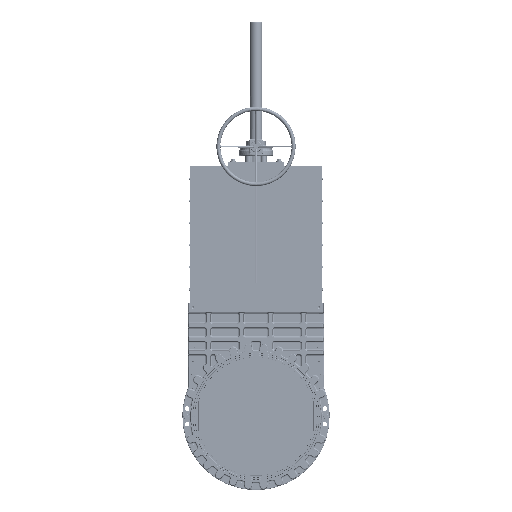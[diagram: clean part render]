
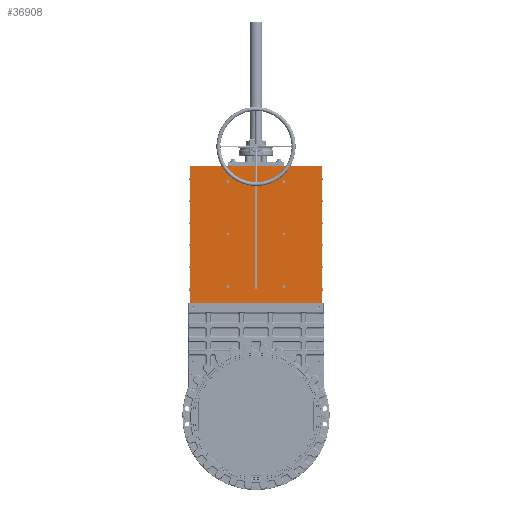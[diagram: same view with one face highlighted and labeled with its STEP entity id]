
A CAD part, top view. The second image highlights one B-rep face of the part: STEP entity #36908.
In plain terms, the highlighted planar face has unit normal (0, 0, 1).
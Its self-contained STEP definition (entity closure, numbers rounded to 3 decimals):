
#26195=PLANE('',#96330);
#29026=LINE('',#161830,#32277);
#29234=LINE('',#162666,#32485);
#29237=LINE('',#162670,#32488);
#29343=LINE('',#163003,#32594);
#29345=LINE('',#163012,#32596);
#29360=LINE('',#163071,#32611);
#29361=LINE('',#163072,#32612);
#29362=LINE('',#163073,#32613);
#32277=VECTOR('',#112100,1.);
#32485=VECTOR('',#112832,1.);
#32488=VECTOR('',#112837,1.);
#32594=VECTOR('',#113165,1.);
#32596=VECTOR('',#113173,1.);
#32611=VECTOR('',#113236,1.);
#32612=VECTOR('',#113237,1.);
#32613=VECTOR('',#113238,1.);
#36908=ADVANCED_FACE('',(#41759,#41760,#41761,#41762,#41763,#41764,#41765,
#41766),#26195,.T.);
#41759=FACE_BOUND('',#47703,.T.);
#41760=FACE_BOUND('',#47704,.T.);
#41761=FACE_BOUND('',#47705,.T.);
#41762=FACE_BOUND('',#47706,.T.);
#41763=FACE_BOUND('',#47707,.T.);
#41764=FACE_BOUND('',#47708,.T.);
#41765=FACE_BOUND('',#47709,.T.);
#41766=FACE_BOUND('',#47710,.T.);
#47703=EDGE_LOOP('',(#64631));
#47704=EDGE_LOOP('',(#64632));
#47705=EDGE_LOOP('',(#64633));
#47706=EDGE_LOOP('',(#64634));
#47707=EDGE_LOOP('',(#64635));
#47708=EDGE_LOOP('',(#64636));
#47709=EDGE_LOOP('',(#64637,#64638,#64639,#64640));
#47710=EDGE_LOOP('',(#64641,#64642,#64643,#64644,#64645,#64646));
#64631=ORIENTED_EDGE('',*,*,#84027,.T.);
#64632=ORIENTED_EDGE('',*,*,#84028,.T.);
#64633=ORIENTED_EDGE('',*,*,#84029,.T.);
#64634=ORIENTED_EDGE('',*,*,#84030,.T.);
#64635=ORIENTED_EDGE('',*,*,#84031,.T.);
#64636=ORIENTED_EDGE('',*,*,#84032,.T.);
#64637=ORIENTED_EDGE('',*,*,#83829,.F.);
#64638=ORIENTED_EDGE('',*,*,#83834,.F.);
#64639=ORIENTED_EDGE('',*,*,#83825,.F.);
#64640=ORIENTED_EDGE('',*,*,#83831,.T.);
#64641=ORIENTED_EDGE('',*,*,#84033,.T.);
#64642=ORIENTED_EDGE('',*,*,#83998,.F.);
#64643=ORIENTED_EDGE('',*,*,#84034,.T.);
#64644=ORIENTED_EDGE('',*,*,#83513,.T.);
#64645=ORIENTED_EDGE('',*,*,#84035,.T.);
#64646=ORIENTED_EDGE('',*,*,#84002,.F.);
#74437=VERTEX_POINT('',#161818);
#74439=VERTEX_POINT('',#161826);
#74656=VERTEX_POINT('',#162652);
#74657=VERTEX_POINT('',#162654);
#74660=VERTEX_POINT('',#162661);
#74661=VERTEX_POINT('',#162663);
#74774=VERTEX_POINT('',#162997);
#74777=VERTEX_POINT('',#163002);
#74778=VERTEX_POINT('',#163006);
#74781=VERTEX_POINT('',#163011);
#74796=VERTEX_POINT('',#163060);
#74797=VERTEX_POINT('',#163062);
#74798=VERTEX_POINT('',#163064);
#74799=VERTEX_POINT('',#163066);
#74800=VERTEX_POINT('',#163068);
#74801=VERTEX_POINT('',#163070);
#83513=EDGE_CURVE('',#74439,#74437,#29026,.T.);
#83825=EDGE_CURVE('',#74656,#74657,#89209,.T.);
#83829=EDGE_CURVE('',#74660,#74661,#89211,.T.);
#83831=EDGE_CURVE('',#74656,#74661,#29234,.T.);
#83834=EDGE_CURVE('',#74657,#74660,#29237,.T.);
#83998=EDGE_CURVE('',#74777,#74774,#29343,.T.);
#84002=EDGE_CURVE('',#74781,#74778,#29345,.T.);
#84027=EDGE_CURVE('',#74796,#74796,#89282,.T.);
#84028=EDGE_CURVE('',#74797,#74797,#89283,.T.);
#84029=EDGE_CURVE('',#74798,#74798,#89284,.T.);
#84030=EDGE_CURVE('',#74799,#74799,#89285,.T.);
#84031=EDGE_CURVE('',#74800,#74800,#89286,.T.);
#84032=EDGE_CURVE('',#74801,#74801,#89287,.T.);
#84033=EDGE_CURVE('',#74781,#74774,#29360,.T.);
#84034=EDGE_CURVE('',#74777,#74439,#29361,.T.);
#84035=EDGE_CURVE('',#74437,#74778,#29362,.T.);
#89209=CIRCLE('',#96186,5.);
#89211=CIRCLE('',#96189,5.);
#89282=CIRCLE('',#96324,10.);
#89283=CIRCLE('',#96325,10.);
#89284=CIRCLE('',#96326,10.);
#89285=CIRCLE('',#96327,10.);
#89286=CIRCLE('',#96328,10.);
#89287=CIRCLE('',#96329,10.);
#96186=AXIS2_PLACEMENT_3D('',#162653,#112819,#112820);
#96189=AXIS2_PLACEMENT_3D('',#162662,#112827,#112828);
#96324=AXIS2_PLACEMENT_3D('',#163059,#113224,#113225);
#96325=AXIS2_PLACEMENT_3D('',#163061,#113226,#113227);
#96326=AXIS2_PLACEMENT_3D('',#163063,#113228,#113229);
#96327=AXIS2_PLACEMENT_3D('',#163065,#113230,#113231);
#96328=AXIS2_PLACEMENT_3D('',#163067,#113232,#113233);
#96329=AXIS2_PLACEMENT_3D('',#163069,#113234,#113235);
#96330=AXIS2_PLACEMENT_3D('',#163074,#113239,#113240);
#112100=DIRECTION('',(-1.,0.,0.));
#112819=DIRECTION('',(0.,0.,1.));
#112820=DIRECTION('',(1.,0.,0.));
#112827=DIRECTION('',(0.,0.,1.));
#112828=DIRECTION('',(1.,0.,0.));
#112832=DIRECTION('',(0.,-1.,0.));
#112837=DIRECTION('',(0.,-1.,0.));
#113165=DIRECTION('',(0.,-1.,0.));
#113173=DIRECTION('',(0.,1.,0.));
#113224=DIRECTION('',(0.,0.,-1.));
#113225=DIRECTION('',(1.,0.,0.));
#113226=DIRECTION('',(0.,0.,-1.));
#113227=DIRECTION('',(1.,0.,0.));
#113228=DIRECTION('',(0.,0.,-1.));
#113229=DIRECTION('',(0.,1.,0.));
#113230=DIRECTION('',(0.,0.,-1.));
#113231=DIRECTION('',(1.,0.,0.));
#113232=DIRECTION('',(0.,0.,-1.));
#113233=DIRECTION('',(0.,1.,0.));
#113234=DIRECTION('',(0.,0.,-1.));
#113235=DIRECTION('',(0.,1.,0.));
#113236=DIRECTION('',(1.,0.,0.));
#113237=DIRECTION('',(-1.,0.,0.));
#113238=DIRECTION('',(-1.,0.,0.));
#113239=DIRECTION('',(0.,0.,1.));
#113240=DIRECTION('',(-1.,0.,0.));
#161818=CARTESIAN_POINT('',(-210.,1900.,0.));
#161826=CARTESIAN_POINT('',(210.,1900.,0.));
#161830=CARTESIAN_POINT('',(0.,1900.,0.));
#162652=CARTESIAN_POINT('',(5.,1855.,0.));
#162653=CARTESIAN_POINT('',(0.,1855.,0.));
#162654=CARTESIAN_POINT('',(-5.,1855.,0.));
#162661=CARTESIAN_POINT('',(-5.,968.,0.));
#162662=CARTESIAN_POINT('',(0.,968.,0.));
#162663=CARTESIAN_POINT('',(5.,968.,0.));
#162666=CARTESIAN_POINT('',(5.,1381.5,0.));
#162670=CARTESIAN_POINT('',(-5.,1381.5,0.));
#162997=CARTESIAN_POINT('',(498.,863.,0.));
#163002=CARTESIAN_POINT('',(498.,1900.,0.));
#163003=CARTESIAN_POINT('',(498.,1381.5,0.));
#163006=CARTESIAN_POINT('',(-498.,1900.,0.));
#163011=CARTESIAN_POINT('',(-498.,863.,0.));
#163012=CARTESIAN_POINT('',(-498.,1381.5,0.));
#163059=CARTESIAN_POINT('',(212.028,1381.5,0.));
#163060=CARTESIAN_POINT('',(222.028,1381.5,0.));
#163061=CARTESIAN_POINT('',(212.028,1780.,0.));
#163062=CARTESIAN_POINT('',(222.028,1780.,0.));
#163063=CARTESIAN_POINT('',(-212.028,1780.,0.));
#163064=CARTESIAN_POINT('',(-212.028,1790.,0.));
#163065=CARTESIAN_POINT('',(212.028,983.,0.));
#163066=CARTESIAN_POINT('',(222.028,983.,0.));
#163067=CARTESIAN_POINT('',(-212.028,1381.5,0.));
#163068=CARTESIAN_POINT('',(-212.028,1391.5,0.));
#163069=CARTESIAN_POINT('',(-212.028,983.,0.));
#163070=CARTESIAN_POINT('',(-212.028,993.,0.));
#163071=CARTESIAN_POINT('',(0.,863.,0.));
#163072=CARTESIAN_POINT('',(0.,1900.,0.));
#163073=CARTESIAN_POINT('',(0.,1900.,0.));
#163074=CARTESIAN_POINT('',(0.,1381.5,0.));
